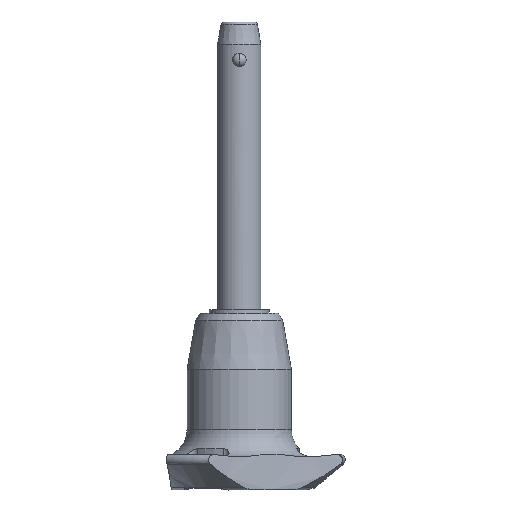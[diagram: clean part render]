
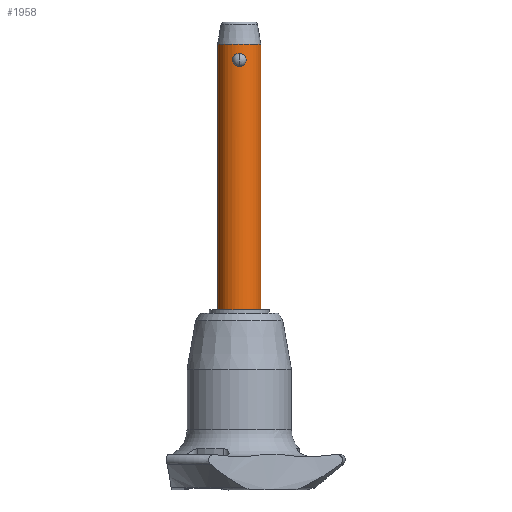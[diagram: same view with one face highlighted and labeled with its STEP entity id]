
A CAD part, front view. The second image highlights one B-rep face of the part: STEP entity #1958.
In plain terms, the highlighted cylindrical face has radius 4 mm (diameter 8 mm), a partial arc.
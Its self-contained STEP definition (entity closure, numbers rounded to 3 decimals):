
#13 = VERTEX_POINT ( 'NONE', #1220 ) ;
#82 = CARTESIAN_POINT ( 'NONE',  ( -0.162, -4., 0. ) ) ;
#95 = CARTESIAN_POINT ( 'NONE',  ( -1.231, -3.806, 1.527 ) ) ;
#98 = VERTEX_POINT ( 'NONE', #1101 ) ;
#121 = CARTESIAN_POINT ( 'NONE',  ( -0.945, -3.887, 2.008 ) ) ;
#154 = AXIS2_PLACEMENT_3D ( 'NONE', #702, #2159, #1098 ) ;
#183 = CIRCLE ( 'NONE', #1748, 4. ) ;
#224 = EDGE_CURVE ( 'NONE', #1752, #13, #183, .T. ) ;
#307 = CARTESIAN_POINT ( 'NONE',  ( -1.224, -3.808, 0.879 ) ) ;
#317 = CARTESIAN_POINT ( 'NONE',  ( -0.553, -3.962, 2.285 ) ) ;
#333 = CARTESIAN_POINT ( 'NONE',  ( -0.325, -3.99, 2.371 ) ) ;
#346 = CARTESIAN_POINT ( 'NONE',  ( -4., 0., -45. ) ) ;
#365 = B_SPLINE_CURVE_WITH_KNOTS ( 'NONE', 3,
 ( #1013, #2304, #1689, #1025, #1454, #2502, #1041, #1903, #425, #2688, #836, #1872, #2530, #2702, #808, #2328, #1658, #1225, #1442, #1256, #395, #2095 ),
 .UNSPECIFIED., .F., .F.,
 ( 4, 2, 2, 2, 2, 2, 2, 2, 2, 2, 4 ),
 ( 0.004, 0.004, 0.005, 0.005, 0.005, 0.006, 0.006, 0.006, 0.007, 0.007, 0.008 ),
 .UNSPECIFIED. ) ;
#383 = CIRCLE ( 'NONE', #869, 4. ) ;
#395 = CARTESIAN_POINT ( 'NONE',  ( 0.164, -4., 2.4 ) ) ;
#425 = CARTESIAN_POINT ( 'NONE',  ( 1.132, -3.836, 0.651 ) ) ;
#509 = CARTESIAN_POINT ( 'NONE',  ( -1.005, -3.874, 0.447 ) ) ;
#524 = EDGE_CURVE ( 'NONE', #1920, #1752, #2665, .T. ) ;
#530 = ORIENTED_EDGE ( 'NONE', *, *, #2034, .F. ) ;
#540 = DIRECTION ( 'NONE',  ( 0., 0., 1. ) ) ;
#561 = DIRECTION ( 'NONE',  ( 1., 0., 0. ) ) ;
#562 = VERTEX_POINT ( 'NONE', #2045 ) ;
#576 = CARTESIAN_POINT ( 'NONE',  ( 4., 0., -45. ) ) ;
#596 = DIRECTION ( 'NONE',  ( 0., 0., -1. ) ) ;
#624 = LINE ( 'NONE', #1648, #912 ) ;
#678 = CARTESIAN_POINT ( 'NONE',  ( 0., 0., -45. ) ) ;
#702 = CARTESIAN_POINT ( 'NONE',  ( 0., 0., -45. ) ) ;
#808 = CARTESIAN_POINT ( 'NONE',  ( 1.199, -3.816, 1.599 ) ) ;
#836 = CARTESIAN_POINT ( 'NONE',  ( 1.266, -3.794, 1.035 ) ) ;
#869 = AXIS2_PLACEMENT_3D ( 'NONE', #678, #1135, #561 ) ;
#890 = ORIENTED_EDGE ( 'NONE', *, *, #524, .T. ) ;
#912 = VECTOR ( 'NONE', #2321, 1000. ) ;
#1013 = CARTESIAN_POINT ( 'NONE',  ( 0., -4., 0. ) ) ;
#1025 = CARTESIAN_POINT ( 'NONE',  ( 0.627, -3.953, 0.143 ) ) ;
#1032 = ORIENTED_EDGE ( 'NONE', *, *, #1476, .F. ) ;
#1041 = CARTESIAN_POINT ( 'NONE',  ( 0.999, -3.874, 0.452 ) ) ;
#1098 = DIRECTION ( 'NONE',  ( 1., 0., 0. ) ) ;
#1101 = CARTESIAN_POINT ( 'NONE',  ( 0., -4., 0. ) ) ;
#1125 = ORIENTED_EDGE ( 'NONE', *, *, #2240, .F. ) ;
#1133 = CARTESIAN_POINT ( 'NONE',  ( -1.199, -3.816, 0.802 ) ) ;
#1135 = DIRECTION ( 'NONE',  ( 0., 0., -1. ) ) ;
#1138 = CARTESIAN_POINT ( 'NONE',  ( 4., 0., 4.1 ) ) ;
#1154 = CARTESIAN_POINT ( 'NONE',  ( -0.762, -3.927, 2.166 ) ) ;
#1168 = CARTESIAN_POINT ( 'NONE',  ( -0.625, -3.951, 2.25 ) ) ;
#1220 = CARTESIAN_POINT ( 'NONE',  ( -4., 0., 4.1 ) ) ;
#1225 = CARTESIAN_POINT ( 'NONE',  ( 0.769, -3.927, 2.171 ) ) ;
#1256 = CARTESIAN_POINT ( 'NONE',  ( 0.326, -3.99, 2.371 ) ) ;
#1273 = FACE_BOUND ( 'NONE', #1865, .T. ) ;
#1325 = CARTESIAN_POINT ( 'NONE',  ( -1.101, -3.846, 0.579 ) ) ;
#1336 = CARTESIAN_POINT ( 'NONE',  ( -1.092, -3.848, 1.818 ) ) ;
#1349 = CARTESIAN_POINT ( 'NONE',  ( 0., -4., 2.4 ) ) ;
#1390 = ORIENTED_EDGE ( 'NONE', *, *, #224, .T. ) ;
#1442 = CARTESIAN_POINT ( 'NONE',  ( 0.629, -3.953, 2.256 ) ) ;
#1454 = CARTESIAN_POINT ( 'NONE',  ( 0.768, -3.927, 0.228 ) ) ;
#1465 = DIRECTION ( 'NONE',  ( 1., 0., 0. ) ) ;
#1476 = EDGE_CURVE ( 'NONE', #2521, #13, #624, .T. ) ;
#1585 = CARTESIAN_POINT ( 'NONE',  ( -1.266, -3.794, 1.12 ) ) ;
#1608 = CARTESIAN_POINT ( 'NONE',  ( -1.258, -3.797, 1.038 ) ) ;
#1648 = CARTESIAN_POINT ( 'NONE',  ( -4., 0., -45. ) ) ;
#1658 = CARTESIAN_POINT ( 'NONE',  ( 1.005, -3.874, 1.953 ) ) ;
#1689 = CARTESIAN_POINT ( 'NONE',  ( 0.326, -3.99, 0.029 ) ) ;
#1748 = AXIS2_PLACEMENT_3D ( 'NONE', #1895, #596, #1465 ) ;
#1752 = VERTEX_POINT ( 'NONE', #1138 ) ;
#1778 = CARTESIAN_POINT ( 'NONE',  ( -0.326, -3.99, 0.029 ) ) ;
#1801 = CARTESIAN_POINT ( 'NONE',  ( -1.266, -3.794, 1.364 ) ) ;
#1828 = CARTESIAN_POINT ( 'NONE',  ( -0.998, -3.874, 1.949 ) ) ;
#1865 = EDGE_LOOP ( 'NONE', ( #2631, #1125 ) ) ;
#1872 = CARTESIAN_POINT ( 'NONE',  ( 1.266, -3.794, 1.281 ) ) ;
#1895 = CARTESIAN_POINT ( 'NONE',  ( 0., 0., 4.1 ) ) ;
#1903 = CARTESIAN_POINT ( 'NONE',  ( 1.092, -3.848, 0.582 ) ) ;
#1920 = VERTEX_POINT ( 'NONE', #576 ) ;
#1933 = EDGE_LOOP ( 'NONE', ( #1032, #530, #890, #1390 ) ) ;
#1934 = B_SPLINE_CURVE_WITH_KNOTS ( 'NONE', 3,
 ( #1349, #2645, #333, #317, #1168, #1154, #2038, #121, #1828, #1336, #2657, #95, #1801, #1585, #1608, #307, #1133, #1325, #509, #2457, #1999, #1778, #82, #2200 ),
 .UNSPECIFIED., .F., .F.,
 ( 4, 2, 2, 2, 2, 2, 2, 2, 2, 2, 2, 4 ),
 ( 0., 0., 0.001, 0.001, 0.001, 0.001, 0.002, 0.002, 0.002, 0.003, 0.003, 0.004 ),
 .UNSPECIFIED. ) ;
#1958 = ADVANCED_FACE ( 'NONE', ( #1966, #1273 ), #2546, .T. ) ;
#1966 = FACE_OUTER_BOUND ( 'NONE', #1933, .T. ) ;
#1999 = CARTESIAN_POINT ( 'NONE',  ( -0.628, -3.953, 0.143 ) ) ;
#2017 = CARTESIAN_POINT ( 'NONE',  ( 4., 0., -45. ) ) ;
#2034 = EDGE_CURVE ( 'NONE', #1920, #2521, #383, .T. ) ;
#2038 = CARTESIAN_POINT ( 'NONE',  ( -0.827, -3.914, 2.117 ) ) ;
#2045 = CARTESIAN_POINT ( 'NONE',  ( 0., -4., 2.4 ) ) ;
#2095 = CARTESIAN_POINT ( 'NONE',  ( 0., -4., 2.4 ) ) ;
#2159 = DIRECTION ( 'NONE',  ( 0., 0., 1. ) ) ;
#2171 = VECTOR ( 'NONE', #540, 1000. ) ;
#2200 = CARTESIAN_POINT ( 'NONE',  ( 0., -4., 0. ) ) ;
#2240 = EDGE_CURVE ( 'NONE', #98, #562, #365, .T. ) ;
#2304 = CARTESIAN_POINT ( 'NONE',  ( 0.162, -4., 0. ) ) ;
#2321 = DIRECTION ( 'NONE',  ( 0., 0., 1. ) ) ;
#2328 = CARTESIAN_POINT ( 'NONE',  ( 1.101, -3.846, 1.82 ) ) ;
#2448 = EDGE_CURVE ( 'NONE', #562, #98, #1934, .T. ) ;
#2457 = CARTESIAN_POINT ( 'NONE',  ( -0.768, -3.927, 0.228 ) ) ;
#2502 = CARTESIAN_POINT ( 'NONE',  ( 0.944, -3.887, 0.391 ) ) ;
#2521 = VERTEX_POINT ( 'NONE', #346 ) ;
#2530 = CARTESIAN_POINT ( 'NONE',  ( 1.258, -3.797, 1.361 ) ) ;
#2546 = CYLINDRICAL_SURFACE ( 'NONE', #154, 4. ) ;
#2631 = ORIENTED_EDGE ( 'NONE', *, *, #2448, .F. ) ;
#2645 = CARTESIAN_POINT ( 'NONE',  ( -0.164, -4., 2.4 ) ) ;
#2657 = CARTESIAN_POINT ( 'NONE',  ( -1.133, -3.836, 1.747 ) ) ;
#2665 = LINE ( 'NONE', #2017, #2171 ) ;
#2688 = CARTESIAN_POINT ( 'NONE',  ( 1.231, -3.806, 0.873 ) ) ;
#2702 = CARTESIAN_POINT ( 'NONE',  ( 1.224, -3.808, 1.52 ) ) ;
